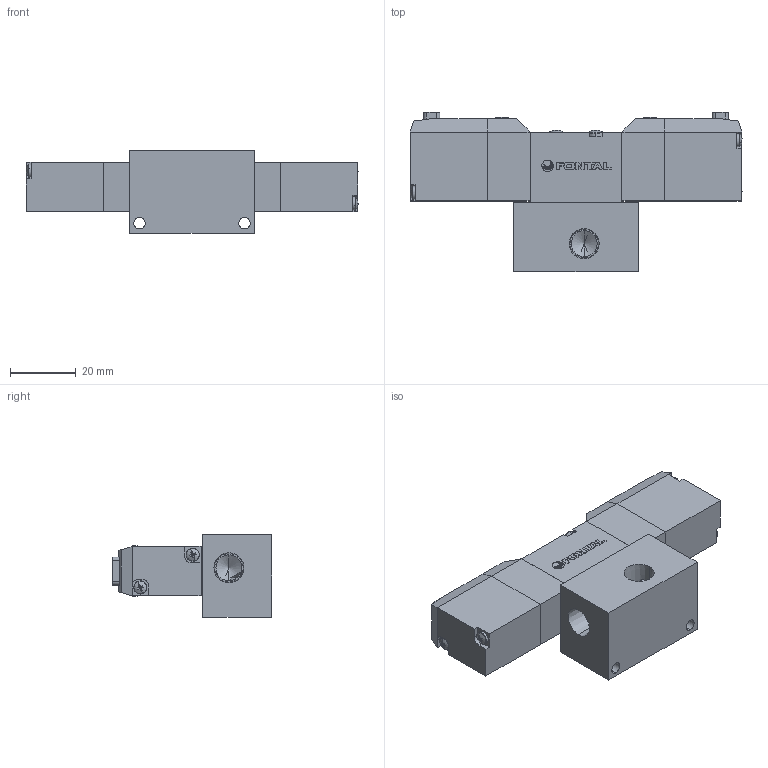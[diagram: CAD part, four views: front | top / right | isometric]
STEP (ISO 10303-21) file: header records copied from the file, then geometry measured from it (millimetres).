
FILE_DESCRIPTION (( 'STEP AP203' ), '1' );
FILE_NAME ('PCD245#-01-#-U-#.STEP', '2016-02-04T03:42:14', ( 'Sam Lin' ), ( '' ), 'SwSTEP 2.0', 'SolidWorks 2013', '' );
FILE_SCHEMA (( 'CONFIG_CONTROL_DESIGN' ));
Length unit declared in the file: metre
Products named in the file (9): ISO 7045 - M2.5 x 25; PC5-01-1; PC5-3-U; PCD245#-01-#-U-#; PC5-5; PC-MARK; PC5-6; PC5-4; ISO 7045 - M2 x 10
Assembly tree (15 placements, depth 2):
  PCD245#-01-#-U-#
    PC5-5  x2
    PC-MARK
    PC5-6  x2
    PC5-4  x2
    ISO 7045 - M2 x 10  x4
    ISO 7045 - M2.5 x 25  x2
    PC5-01-1
    PC5-3-U
Bounding box: 101.14 x 48.5 x 25 mm (x, y, z)
Volume: 51191.3 mm3; surface area: 20026.8 mm2
Topology: 21 solids, 21 shells, 531 faces, 1303 edges, 811 vertices
Faces by surface type: plane 294, cylinder 109, cone 84, bspline 44
Entity records: 10491 total; most frequent: CARTESIAN_POINT 2212, ORIENTED_EDGE 1482, DIRECTION 1472, EDGE_CURVE 741, AXIS2_PLACEMENT_3D 522, VERTEX_POINT 478, VECTOR 428, LINE 428
